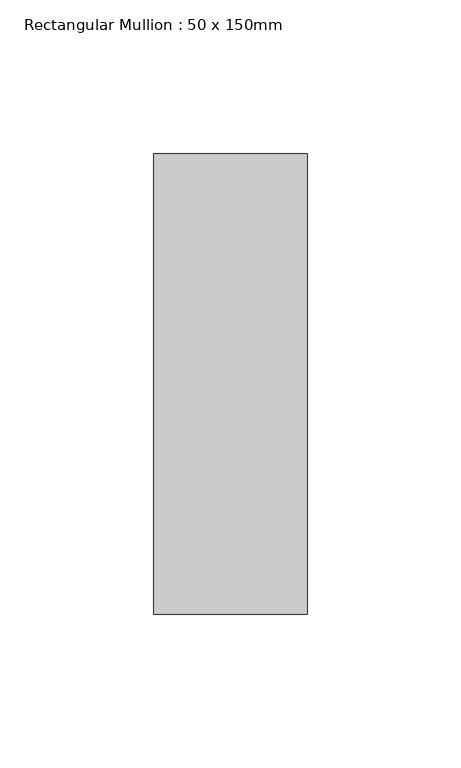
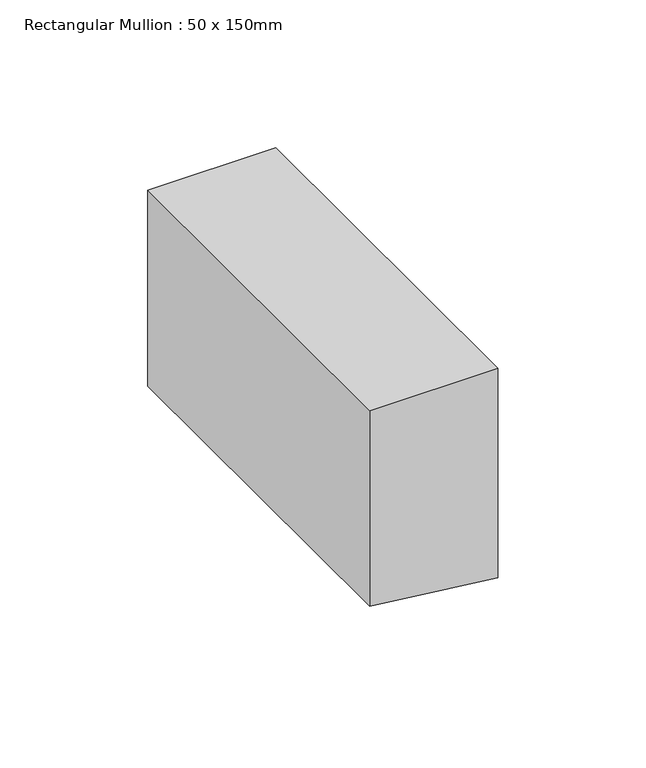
"""IFC4 building model written with IfcOpenShell, lengths in millimetres: member geometry, Rectangular Mullion : 50 x 150mm."""

from ifc_helpers import new_model, si_unit, frame, origin, place, context, project, spatial, polyline, outline, extrude, source, transform, mapped, element, save


def rectangular_mullion_50_x_150mm_10cf1ab0(model_context):
    return source(origin(), model_context, "Body", "SweptSolid", [
        extrude(outline(polyline([(0.0, 25.0), (0.0, -25.0), (-80.8361129, -25.0), (-84.3162722, 5.6423937), (-86.5147803, 25.0), (0.0, 25.0)])), frame((0.0, -75.0, 0.0), z_axis=(0.0, 1.0, 0.0), x_axis=(0.0, 0.0, 1.0)), (0.0, 0.0, 1.0), 150.0),
    ])


if __name__ == "__main__":
    model = new_model("IFC4")
    model_context = context("Model", 3, world=origin())
    ifc_project = project(units=[si_unit("LENGTHUNIT", "METRE", prefix="MILLI")], contexts=[model_context])
    site = spatial("IfcSite", under=ifc_project)
    building = spatial("IfcBuilding", under=site)
    placement = place(None, origin())
    rectangular_mullion_50_x_150mm_shape = rectangular_mullion_50_x_150mm_10cf1ab0(model_context)
    element("IfcMember", 1, ObjectType="Rectangular Mullion : 50 x 150mm", at=placement, inside=building, context=model_context, shape_type="MappedRepresentation", body=[
        mapped(rectangular_mullion_50_x_150mm_shape, transform((0.0, 0.0, 0.0), x_axis=(1.0, 0.0, 0.0), y_axis=(0.0, 1.0, 0.0), z_axis=(0.0, 0.0, 1.0))),
    ])
    save(model, "model.ifc")
